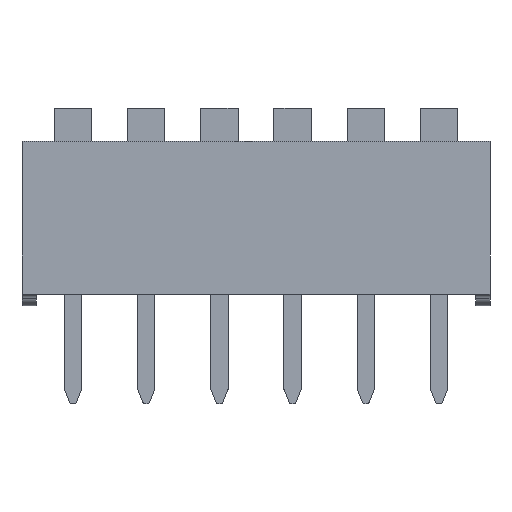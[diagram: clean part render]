
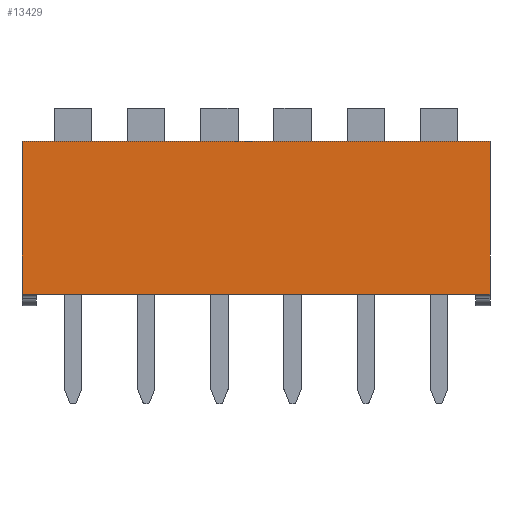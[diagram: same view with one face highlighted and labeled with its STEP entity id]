
A CAD part, front view. The second image highlights one B-rep face of the part: STEP entity #13429.
In plain terms, the highlighted planar face has unit normal (0, -1, 0).
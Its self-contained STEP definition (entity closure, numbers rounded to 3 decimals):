
#102 = PLANE('',#103);
#103 = AXIS2_PLACEMENT_3D('',#104,#105,#106);
#104 = CARTESIAN_POINT('',(-1.77,8.76,0.4));
#105 = DIRECTION('',(-1.,0.,0.));
#106 = DIRECTION('',(0.,-1.,0.));
#249 = VERTEX_POINT('',#250);
#250 = CARTESIAN_POINT('',(-1.77,-1.14,0.4));
#264 = PLANE('',#265);
#265 = AXIS2_PLACEMENT_3D('',#266,#267,#268);
#266 = CARTESIAN_POINT('',(6.35,3.81,0.4));
#267 = DIRECTION('',(0.,0.,1.));
#268 = DIRECTION('',(1.,0.,0.));
#276 = EDGE_CURVE('',#249,#277,#279,.T.);
#277 = VERTEX_POINT('',#278);
#278 = CARTESIAN_POINT('',(-1.77,-1.14,5.7));
#279 = SURFACE_CURVE('',#280,(#284,#291),.PCURVE_S1.);
#280 = LINE('',#281,#282);
#281 = CARTESIAN_POINT('',(-1.77,-1.14,0.4));
#282 = VECTOR('',#283,1.);
#283 = DIRECTION('',(0.,0.,1.));
#284 = PCURVE('',#102,#285);
#285 = DEFINITIONAL_REPRESENTATION('',(#286),#290);
#286 = LINE('',#287,#288);
#287 = CARTESIAN_POINT('',(9.9,0.));
#288 = VECTOR('',#289,1.);
#289 = DIRECTION('',(0.,1.));
#290 = ( GEOMETRIC_REPRESENTATION_CONTEXT(2) 
PARAMETRIC_REPRESENTATION_CONTEXT() REPRESENTATION_CONTEXT('2D SPACE',''
  ) );
#291 = PCURVE('',#292,#297);
#292 = PLANE('',#293);
#293 = AXIS2_PLACEMENT_3D('',#294,#295,#296);
#294 = CARTESIAN_POINT('',(-1.77,-1.14,0.4));
#295 = DIRECTION('',(0.,-1.,0.));
#296 = DIRECTION('',(1.,0.,0.));
#297 = DEFINITIONAL_REPRESENTATION('',(#298),#302);
#298 = LINE('',#299,#300);
#299 = CARTESIAN_POINT('',(0.,0.));
#300 = VECTOR('',#301,1.);
#301 = DIRECTION('',(0.,1.));
#302 = ( GEOMETRIC_REPRESENTATION_CONTEXT(2) 
PARAMETRIC_REPRESENTATION_CONTEXT() REPRESENTATION_CONTEXT('2D SPACE',''
  ) );
#320 = PLANE('',#321);
#321 = AXIS2_PLACEMENT_3D('',#322,#323,#324);
#322 = CARTESIAN_POINT('',(6.35,3.81,5.7));
#323 = DIRECTION('',(0.,0.,1.));
#324 = DIRECTION('',(1.,0.,0.));
#1880 = EDGE_CURVE('',#277,#1881,#1883,.T.);
#1881 = VERTEX_POINT('',#1882);
#1882 = CARTESIAN_POINT('',(14.47,-1.14,5.7));
#1883 = SURFACE_CURVE('',#1884,(#1888,#1895),.PCURVE_S1.);
#1884 = LINE('',#1885,#1886);
#1885 = CARTESIAN_POINT('',(14.47,-1.14,5.7));
#1886 = VECTOR('',#1887,1.);
#1887 = DIRECTION('',(1.,0.,0.));
#1888 = PCURVE('',#320,#1889);
#1889 = DEFINITIONAL_REPRESENTATION('',(#1890),#1894);
#1890 = LINE('',#1891,#1892);
#1891 = CARTESIAN_POINT('',(8.12,-4.95));
#1892 = VECTOR('',#1893,1.);
#1893 = DIRECTION('',(1.,0.));
#1894 = ( GEOMETRIC_REPRESENTATION_CONTEXT(2) 
PARAMETRIC_REPRESENTATION_CONTEXT() REPRESENTATION_CONTEXT('2D SPACE',''
  ) );
#1895 = PCURVE('',#292,#1896);
#1896 = DEFINITIONAL_REPRESENTATION('',(#1897),#1901);
#1897 = LINE('',#1898,#1899);
#1898 = CARTESIAN_POINT('',(16.24,5.3));
#1899 = VECTOR('',#1900,1.);
#1900 = DIRECTION('',(1.,0.));
#1901 = ( GEOMETRIC_REPRESENTATION_CONTEXT(2) 
PARAMETRIC_REPRESENTATION_CONTEXT() REPRESENTATION_CONTEXT('2D SPACE',''
  ) );
#1919 = PLANE('',#1920);
#1920 = AXIS2_PLACEMENT_3D('',#1921,#1922,#1923);
#1921 = CARTESIAN_POINT('',(14.47,-1.14,0.4));
#1922 = DIRECTION('',(1.,0.,0.));
#1923 = DIRECTION('',(0.,1.,0.));
#10337 = VERTEX_POINT('',#10338);
#10338 = CARTESIAN_POINT('',(14.47,-1.14,0.4));
#10359 = EDGE_CURVE('',#10337,#249,#10360,.T.);
#10360 = SURFACE_CURVE('',#10361,(#10365,#10372),.PCURVE_S1.);
#10361 = LINE('',#10362,#10363);
#10362 = CARTESIAN_POINT('',(14.47,-1.14,0.4));
#10363 = VECTOR('',#10364,1.);
#10364 = DIRECTION('',(-1.,0.,0.));
#10365 = PCURVE('',#264,#10366);
#10366 = DEFINITIONAL_REPRESENTATION('',(#10367),#10371);
#10367 = LINE('',#10368,#10369);
#10368 = CARTESIAN_POINT('',(8.12,-4.95));
#10369 = VECTOR('',#10370,1.);
#10370 = DIRECTION('',(-1.,0.));
#10371 = ( GEOMETRIC_REPRESENTATION_CONTEXT(2) 
PARAMETRIC_REPRESENTATION_CONTEXT() REPRESENTATION_CONTEXT('2D SPACE',''
  ) );
#10372 = PCURVE('',#292,#10373);
#10373 = DEFINITIONAL_REPRESENTATION('',(#10374),#10378);
#10374 = LINE('',#10375,#10376);
#10375 = CARTESIAN_POINT('',(16.24,0.));
#10376 = VECTOR('',#10377,1.);
#10377 = DIRECTION('',(-1.,0.));
#10378 = ( GEOMETRIC_REPRESENTATION_CONTEXT(2) 
PARAMETRIC_REPRESENTATION_CONTEXT() REPRESENTATION_CONTEXT('2D SPACE',''
  ) );
#13395 = EDGE_CURVE('',#10337,#1881,#13396,.T.);
#13396 = SURFACE_CURVE('',#13397,(#13401,#13408),.PCURVE_S1.);
#13397 = LINE('',#13398,#13399);
#13398 = CARTESIAN_POINT('',(14.47,-1.14,0.4));
#13399 = VECTOR('',#13400,1.);
#13400 = DIRECTION('',(0.,0.,1.));
#13401 = PCURVE('',#1919,#13402);
#13402 = DEFINITIONAL_REPRESENTATION('',(#13403),#13407);
#13403 = LINE('',#13404,#13405);
#13404 = CARTESIAN_POINT('',(0.,0.));
#13405 = VECTOR('',#13406,1.);
#13406 = DIRECTION('',(0.,1.));
#13407 = ( GEOMETRIC_REPRESENTATION_CONTEXT(2) 
PARAMETRIC_REPRESENTATION_CONTEXT() REPRESENTATION_CONTEXT('2D SPACE',''
  ) );
#13408 = PCURVE('',#292,#13409);
#13409 = DEFINITIONAL_REPRESENTATION('',(#13410),#13414);
#13410 = LINE('',#13411,#13412);
#13411 = CARTESIAN_POINT('',(16.24,0.));
#13412 = VECTOR('',#13413,1.);
#13413 = DIRECTION('',(0.,1.));
#13414 = ( GEOMETRIC_REPRESENTATION_CONTEXT(2) 
PARAMETRIC_REPRESENTATION_CONTEXT() REPRESENTATION_CONTEXT('2D SPACE',''
  ) );
#13429 = ADVANCED_FACE('',(#13430),#292,.T.);
#13430 = FACE_BOUND('',#13431,.T.);
#13431 = EDGE_LOOP('',(#13432,#13433,#13434,#13435));
#13432 = ORIENTED_EDGE('',*,*,#10359,.F.);
#13433 = ORIENTED_EDGE('',*,*,#13395,.T.);
#13434 = ORIENTED_EDGE('',*,*,#1880,.F.);
#13435 = ORIENTED_EDGE('',*,*,#276,.F.);
